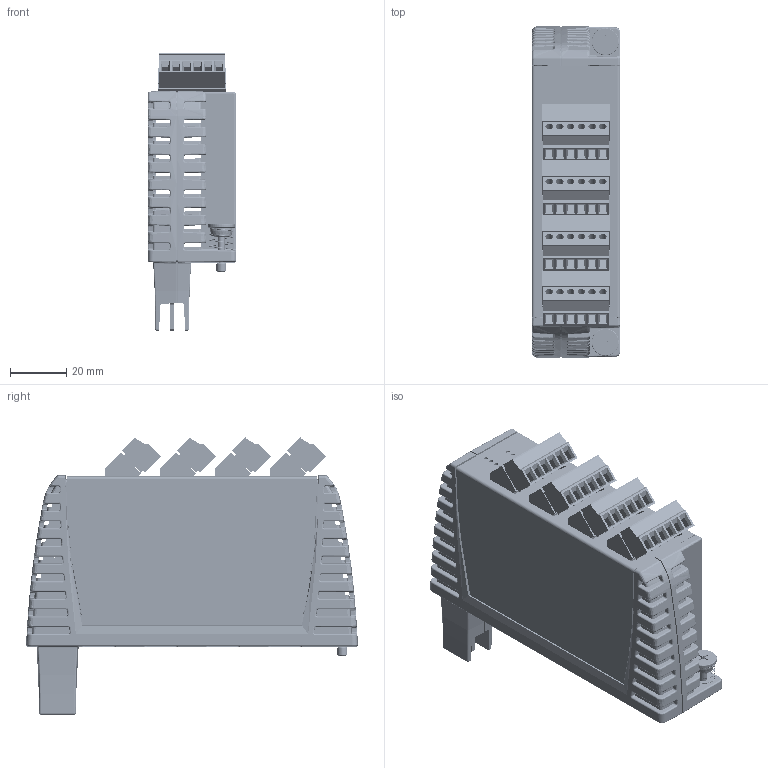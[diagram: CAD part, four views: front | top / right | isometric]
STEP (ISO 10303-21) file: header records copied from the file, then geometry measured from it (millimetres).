
FILE_DESCRIPTION (( 'STEP AP203' ), '1' );
FILE_NAME ('GMPID2.STEP', '2013-09-09T18:01:42', ( 'Network Administration' ), ( 'Red Lion Controls Inc.' ), 'SwSTEP 2.0', 'SolidWorks 2013', '' );
FILE_SCHEMA (( 'CONFIG_CONTROL_DESIGN' ));
Length unit declared in the file: millimetre
Products named in the file (14): McMC 90692A086; UIN4_FRONT-1; McMC 91771A143_91771A143; CNTP06G0-1; PEM SCBR-632-8 ZI; CNTP06xA; MODULE LABEL; 4conn_assy; GMPID2; CA503000_MODULE CASE, LEFT HALF; CA503100_MODULE CASE, RIGHT HALF; CV514910-wrap; McMC 90402A106; UIN4_MAIN_BD-1
Assembly tree (25 placements, depth 3):
  GMPID2
    4conn_assy
      UIN4_MAIN_BD-1
      UIN4_FRONT-1
      CNTP06G0-1  x4
      CNTP06xA  x4
    CA503000_MODULE CASE, LEFT HALF
    CA503100_MODULE CASE, RIGHT HALF
    CV514910-wrap
    McMC 90402A106  x2
    McMC 90692A086  x4
    McMC 91771A143_91771A143  x2
    PEM SCBR-632-8 ZI  x2
    MODULE LABEL
Bounding box: 31.5 x 117.84 x 98.44 mm (x, y, z)
Volume: 66858.8 mm3; surface area: 94887.1 mm2
Topology: 26 solids, 26 shells, 6124 faces, 15463 edges, 9442 vertices
Faces by surface type: plane 2329, bspline 1851, cylinder 1485, cone 416, sphere 34, torus 9
Entity records: 221447 total; most frequent: CARTESIAN_POINT 129688, ORIENTED_EDGE 22232, DIRECTION 13998, EDGE_CURVE 11116, VERTEX_POINT 6697, AXIS2_PLACEMENT_3D 4981, EDGE_LOOP 4615, ADVANCED_FACE 4447
